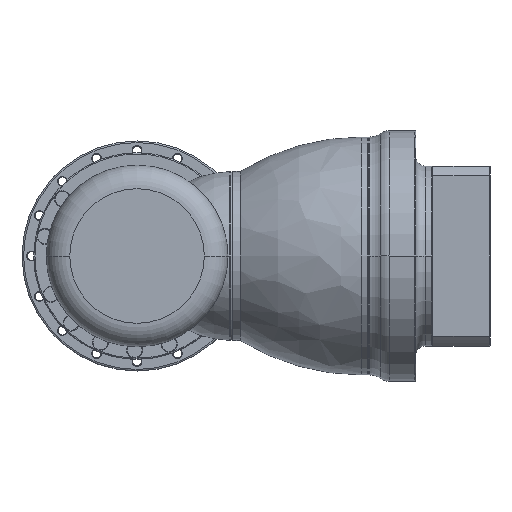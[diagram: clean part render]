
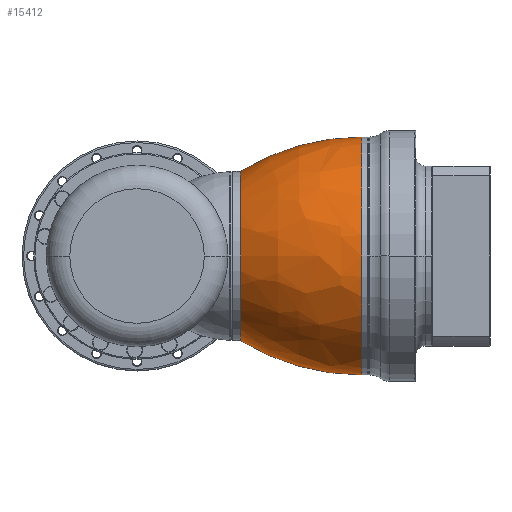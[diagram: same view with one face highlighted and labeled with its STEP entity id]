
A CAD part, left-side view. The second image highlights one B-rep face of the part: STEP entity #15412.
In plain terms, the highlighted free-form (B-spline) face has degree [3, 3] with [7, 4] control points.
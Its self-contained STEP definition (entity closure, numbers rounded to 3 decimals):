
#15118=CARTESIAN_POINT('',(-4.,0.,0.));
#15119=DIRECTION('',(1.,0.,0.));
#15120=DIRECTION('',(0.,-1.,0.));
#15121=AXIS2_PLACEMENT_3D('',#15118,#15119,#15120);
#15142=CARTESIAN_POINT('',(-4.,-71.506,0.));
#15143=DIRECTION('',(0.,0.,-1.));
#15144=DIRECTION('',(-0.525,0.851,0.));
#15145=AXIS2_PLACEMENT_3D('',#15142,#15143,#15144);
#15147=CARTESIAN_POINT('',(-4.,71.506,0.));
#15148=DIRECTION('',(0.,0.,1.));
#15149=DIRECTION('',(-0.525,-0.851,0.));
#15150=AXIS2_PLACEMENT_3D('',#15147,#15148,#15149);
#15162=CARTESIAN_POINT('',(-81.38,0.,0.));
#15163=DIRECTION('',(-1.,0.,0.));
#15164=DIRECTION('',(0.,1.,0.));
#15165=AXIS2_PLACEMENT_3D('',#15162,#15163,#15164);
#15213=CARTESIAN_POINT('',(-4.,76.,0.));
#15214=CARTESIAN_POINT('',(-4.,-76.,0.));
#15215=VERTEX_POINT('',#15213);
#15216=VERTEX_POINT('',#15214);
#15217=CARTESIAN_POINT('',(-81.38,54.074,0.));
#15218=CARTESIAN_POINT('',(-81.38,-54.074,0.));
#15219=VERTEX_POINT('',#15217);
#15220=VERTEX_POINT('',#15218);
#15377=CARTESIAN_POINT('',(-2.371,75.841,
4.772));
#15378=CARTESIAN_POINT('',(-31.003,76.157,
4.791));
#15379=CARTESIAN_POINT('',(-58.552,68.366,
4.301));
#15380=CARTESIAN_POINT('',(-82.762,53.107,
3.341));
#15381=CARTESIAN_POINT('',(-2.371,78.777,
-41.901));
#15382=CARTESIAN_POINT('',(-31.003,79.105,
-42.075));
#15383=CARTESIAN_POINT('',(-58.552,71.013,
-37.771));
#15384=CARTESIAN_POINT('',(-82.762,55.163,
-29.341));
#15385=CARTESIAN_POINT('',(-2.371,46.765,
-75.991));
#15386=CARTESIAN_POINT('',(-31.003,46.959,
-76.307));
#15387=CARTESIAN_POINT('',(-58.552,42.156,
-68.501));
#15388=CARTESIAN_POINT('',(-82.762,32.747,
-53.212));
#15389=CARTESIAN_POINT('',(-2.371,0.,
-75.991));
#15390=CARTESIAN_POINT('',(-31.003,0.,-76.307));
#15391=CARTESIAN_POINT('',(-58.552,0.,
-68.501));
#15392=CARTESIAN_POINT('',(-82.762,0.,-53.212));
#15393=CARTESIAN_POINT('',(-2.371,-46.765,
-75.991));
#15394=CARTESIAN_POINT('',(-31.003,-46.959,
-76.307));
#15395=CARTESIAN_POINT('',(-58.552,-42.156,
-68.501));
#15396=CARTESIAN_POINT('',(-82.762,-32.747,
-53.212));
#15397=CARTESIAN_POINT('',(-2.371,-78.777,
-41.901));
#15398=CARTESIAN_POINT('',(-31.003,-79.105,
-42.075));
#15399=CARTESIAN_POINT('',(-58.552,-71.013,
-37.771));
#15400=CARTESIAN_POINT('',(-82.762,-55.163,
-29.341));
#15401=CARTESIAN_POINT('',(-2.371,-75.841,
4.772));
#15402=CARTESIAN_POINT('',(-31.003,-76.157,
4.791));
#15403=CARTESIAN_POINT('',(-58.552,-68.366,
4.301));
#15404=CARTESIAN_POINT('',(-82.762,-53.107,
3.341));
#15405=(BOUNDED_SURFACE()B_SPLINE_SURFACE(3,3,((#15377,#15378,#15379,#15380),(
#15381,#15382,#15383,#15384),(#15385,#15386,#15387,#15388),(#15389,#15390,
#15391,#15392),(#15393,#15394,#15395,#15396),(#15397,#15398,#15399,#15400),(
#15401,#15402,#15403,#15404)),.UNSPECIFIED.,.F.,.F.,.F.)B_SPLINE_SURFACE_WITH_KNOTS((4,3,4),(4,4),(0.,1.,2.),(0.,1.),.UNSPECIFIED.)GEOMETRIC_REPRESENTATION_ITEM()RATIONAL_B_SPLINE_SURFACE(((1.212,1.179,
1.179,1.212),(0.957,0.931,
0.931,0.957),(0.957,0.931,
0.931,0.957),(1.212,1.179,
1.179,1.212),(0.957,0.931,
0.931,0.957),(0.957,0.931,
0.931,0.957),(1.212,1.179,
1.179,1.212)))REPRESENTATION_ITEM('')SURFACE());
#15406=ORIENTED_EDGE('',*,*,#15368,.T.);
#15407=ORIENTED_EDGE('',*,*,#15343,.T.);
#15408=ORIENTED_EDGE('',*,*,#15289,.T.);
#15409=ORIENTED_EDGE('',*,*,#15340,.F.);
#15410=EDGE_LOOP('',(#15406,#15407,#15408,#15409));
#15411=FACE_OUTER_BOUND('',#15410,.F.);
#15412=ADVANCED_FACE('',(#15411),#15405,.T.);
#15122=CIRCLE('',#15121,76.);
#15146=CIRCLE('',#15145,147.506);
#15151=CIRCLE('',#15150,147.506);
#15166=CIRCLE('',#15165,54.074);
#15289=EDGE_CURVE('',#15216,#15215,#15122,.T.);
#15340=EDGE_CURVE('',#15219,#15215,#15146,.T.);
#15343=EDGE_CURVE('',#15220,#15216,#15151,.T.);
#15368=EDGE_CURVE('',#15219,#15220,#15166,.T.);
